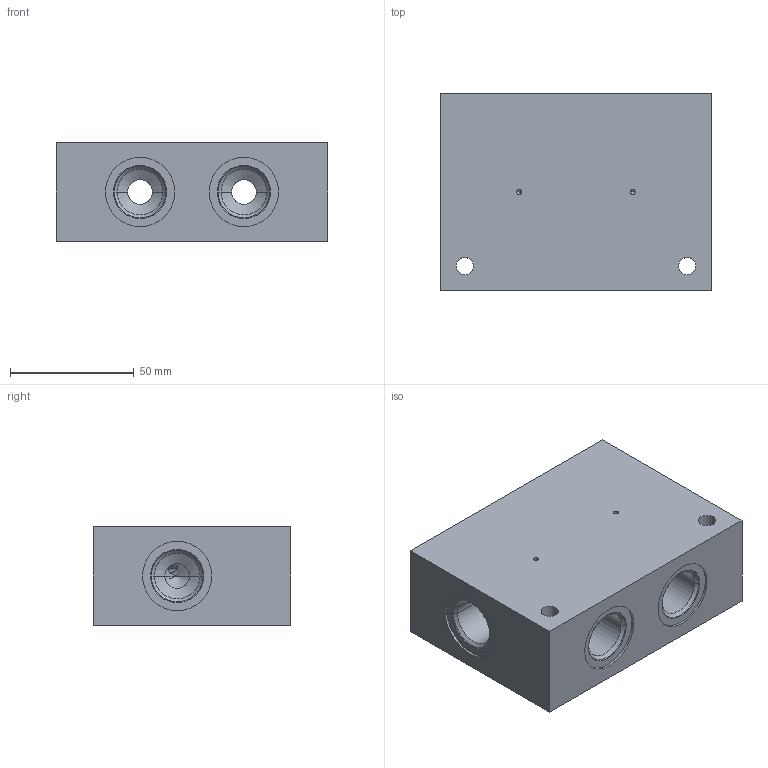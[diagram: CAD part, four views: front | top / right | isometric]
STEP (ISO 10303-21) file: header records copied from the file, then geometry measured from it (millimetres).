
FILE_DESCRIPTION((''),'2;1');
FILE_NAME('428010','2023-10-11T',('l.soukupova'),(''),'PRO/ENGINEER BY PARAMETRIC TECHNOLOGY CORPORATION, 2015440','PRO/ENGINEER BY PARAMETRIC TECHNOLOGY CORPORATION, 2015440','');
FILE_SCHEMA(('AUTOMOTIVE_DESIGN { 1 0 10303 214 1 1 1 1 }'));
Length unit declared in the file: millimetre
Products named in the file (1): 428010
Bounding box: 110 x 80 x 40 mm (x, y, z)
Volume: 291362.3 mm3; surface area: 51277.1 mm2
Topology: 1 solids, 7 shells, 130 faces, 478 edges, 417 vertices
Faces by surface type: cylinder 68, cone 44, plane 18
Entity records: 7677 total; most frequent: CARTESIAN_POINT 1759, DIRECTION 892, ORIENTED_EDGE 560, PRESENTATION_STYLE_ASSIGNMENT 545, STYLED_ITEM 519, CURVE_STYLE 512, VECTOR 298, LINE 298
